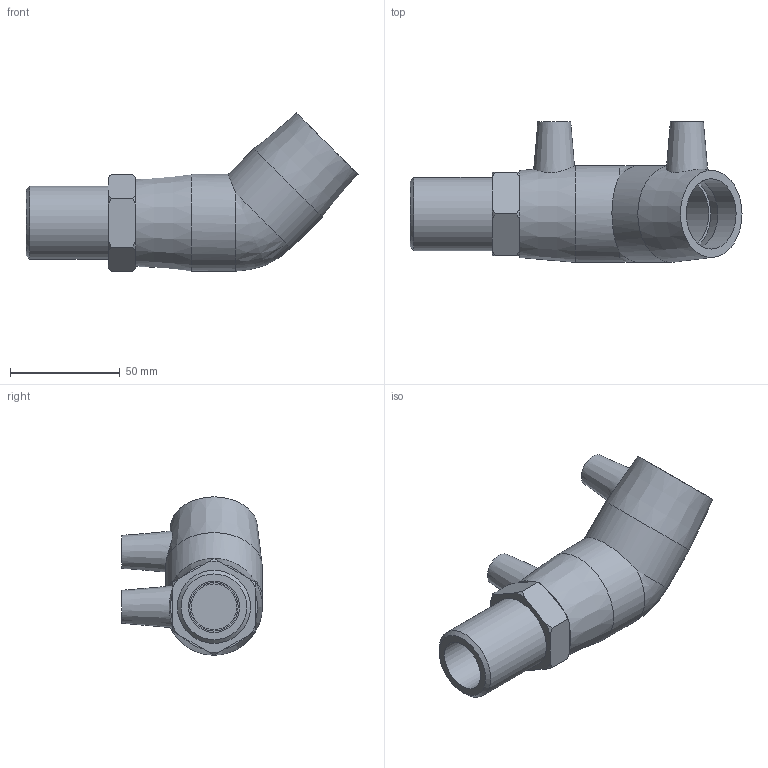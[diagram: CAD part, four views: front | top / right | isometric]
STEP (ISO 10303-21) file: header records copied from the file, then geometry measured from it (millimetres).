
FILE_DESCRIPTION(/* description */ ('PLASSON 45° ELBOW TRANSITION MALE 32 x 1"'),/* implementation_level */ '2;1');
FILE_NAME(/* name */ 'C:\Dropbox\KIMPROJECTS-Inventor\99-16-3568-Processing\ElectroFusion Fittings\02.02.20\492604\492604032010N.ipt.stp',/* time_stamp */ '2020-02-02T12:19:52+02:00',/* author */ ('KIM'),/* organization */ (''),/* preprocessor_version */ 'ST-DEVELOPER v15.6',/* originating_system */ 'Autodesk Inventor 2015',/* authorisation */ '');
FILE_SCHEMA (('AUTOMOTIVE_DESIGN { 1 0 10303 214 3 1 1 }'));
Length unit declared in the file: millimetre
Products named in the file (1): 492604032010N
Bounding box: 151 x 64 x 72.04 mm (x, y, z)
Volume: 127757.4 mm3; surface area: 38544.5 mm2
Topology: 1 solids, 2 shells, 59 faces, 133 edges, 88 vertices
Faces by surface type: plane 24, cone 19, cylinder 15, bspline 1
Full cylindrical faces by diameter (mm): 4 x2, 10 x2, 20.8 x2, 22 x1, 23.274 x1, 32 x4, 33.249 x1, 44 x2
Entity records: 1494 total; most frequent: CARTESIAN_POINT 363, DIRECTION 236, ORIENTED_EDGE 188, AXIS2_PLACEMENT_3D 109, EDGE_LOOP 97, EDGE_CURVE 94, VERTEX_POINT 75, FACE_OUTER_BOUND 59
